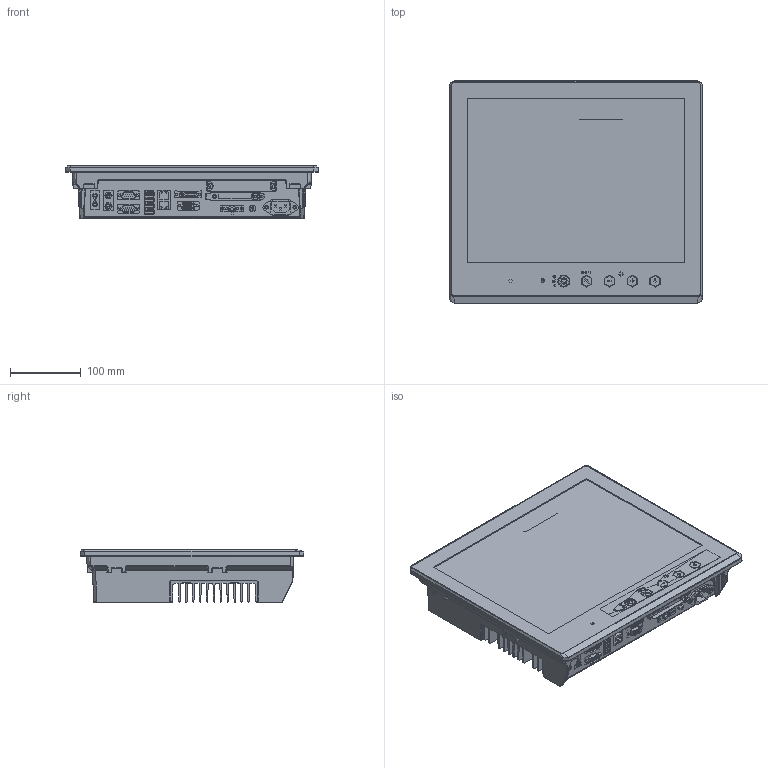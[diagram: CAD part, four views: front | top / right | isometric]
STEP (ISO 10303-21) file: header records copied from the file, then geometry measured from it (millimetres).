
FILE_DESCRIPTION((''),'2;1');
FILE_NAME('PRT0016','2015-09-10T',('Justin_Huang'),(''),'PRO/ENGINEER BY PARAMETRIC TECHNOLOGY CORPORATION, 2013230','PRO/ENGINEER BY PARAMETRIC TECHNOLOGY CORPORATION, 2013230','');
FILE_SCHEMA(('AUTOMOTIVE_DESIGN { 1 0 10303 214 1 1 1 1 }'));
Products named in the file (1): PRT0016
Bounding box: 355.98 x 315.03 x 75 mm (x, y, z)
Topology: 20 solids, 222 shells, 10110 faces, 25247 edges, 15544 vertices
Faces by surface type: plane 5772, cylinder 2877, bspline 808, cone 272, torus 175, sphere 116, extrusion 75, revolution 15
Full cylindrical faces by diameter (mm): 1 x1, 1.1 x2
Entity records: 429082 total; most frequent: CARTESIAN_POINT 148150, ORIENTED_EDGE 49412, DIRECTION 43707, EDGE_CURVE 25066, VERTEX_POINT 15790, VECTOR 15338, LINE 15263, AXIS2_PLACEMENT_3D 14177
